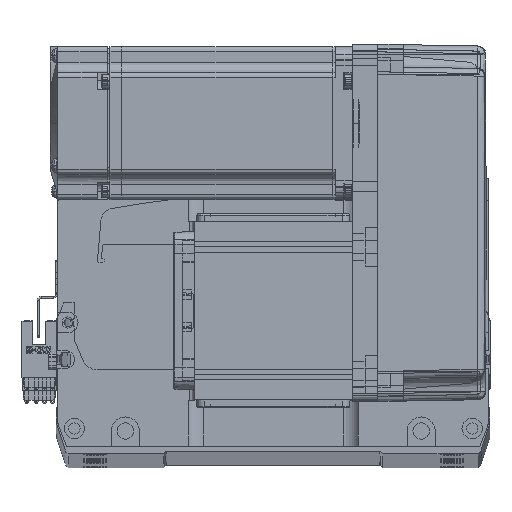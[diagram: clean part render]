
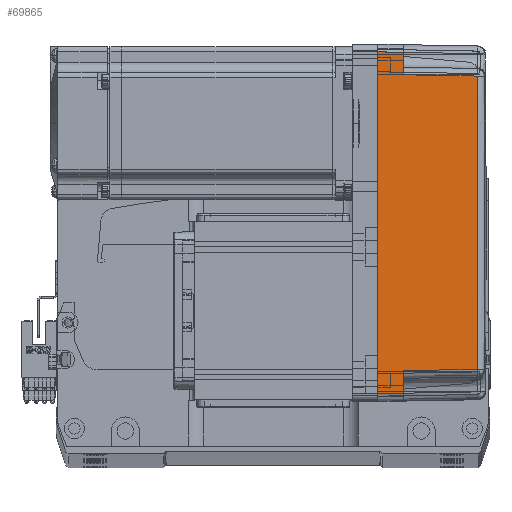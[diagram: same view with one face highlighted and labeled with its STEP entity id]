
A CAD part, top view. The second image highlights one B-rep face of the part: STEP entity #69865.
In plain terms, the highlighted planar face has unit normal (0.018, 0, 1) as drawn and (0, -1, 0.017) by its records, which use the part's own axes.
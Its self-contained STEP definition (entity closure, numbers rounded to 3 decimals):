
#636 = VECTOR ( 'NONE', #19066, 1000. ) ;
#691 = VERTEX_POINT ( 'NONE', #68217 ) ;
#1125 = VERTEX_POINT ( 'NONE', #10844 ) ;
#3075 = CARTESIAN_POINT ( 'NONE',  ( -57.495, -35.32, 38.985 ) ) ;
#5911 = VECTOR ( 'NONE', #8561, 1000. ) ;
#8229 = CARTESIAN_POINT ( 'NONE',  ( 58., -35.825, 10. ) ) ;
#8561 = DIRECTION ( 'NONE',  ( -0.017, 0.017, 1. ) ) ;
#9505 = LINE ( 'NONE', #24992, #66597 ) ;
#9507 = VERTEX_POINT ( 'NONE', #3075 ) ;
#10844 = CARTESIAN_POINT ( 'NONE',  ( 67., -36., 0. ) ) ;
#11178 = LINE ( 'NONE', #8229, #57015 ) ;
#12765 = LINE ( 'NONE', #29956, #636 ) ;
#14915 = ORIENTED_EDGE ( 'NONE', *, *, #27694, .T. ) ;
#15244 = CARTESIAN_POINT ( 'NONE',  ( -58., -35.825, 10. ) ) ;
#15950 = B_SPLINE_CURVE_WITH_KNOTS ( 'NONE', 3,
 ( #58510, #30748, #35818, #47166 ),
 .UNSPECIFIED., .F., .F.,
 ( 4, 4 ),
 ( 0., 1. ),
 .UNSPECIFIED. ) ;
#16515 = LINE ( 'NONE', #65953, #32145 ) ;
#16694 = VERTEX_POINT ( 'NONE', #57727 ) ;
#16784 = ORIENTED_EDGE ( 'NONE', *, *, #39924, .T. ) ;
#18071 = CARTESIAN_POINT ( 'NONE',  ( 70., -35.825, 10. ) ) ;
#18208 = EDGE_CURVE ( 'NONE', #42122, #63940, #42922, .T. ) ;
#18979 = ORIENTED_EDGE ( 'NONE', *, *, #34872, .F. ) ;
#18983 = AXIS2_PLACEMENT_3D ( 'NONE', #41030, #40798, #24318 ) ;
#19066 = DIRECTION ( 'NONE',  ( -0.017, -0.017, -1. ) ) ;
#19715 = DIRECTION ( 'NONE',  ( -1., 0., 0. ) ) ;
#19826 = DIRECTION ( 'NONE',  ( -0.017, 0.017, 1. ) ) ;
#21065 = EDGE_LOOP ( 'NONE', ( #14915, #57268, #62256, #16784, #50118, #69984, #18979, #39163 ) ) ;
#22068 = EDGE_CURVE ( 'NONE', #9507, #42122, #12765, .T. ) ;
#22213 = DIRECTION ( 'NONE',  ( 0.017, 0.017, 1. ) ) ;
#24318 = DIRECTION ( 'NONE',  ( 0., -0.017, -1. ) ) ;
#24992 = CARTESIAN_POINT ( 'NONE',  ( 0., -36., 0. ) ) ;
#25245 = CARTESIAN_POINT ( 'NONE',  ( 67., -36., 0. ) ) ;
#25961 = CARTESIAN_POINT ( 'NONE',  ( 66.826, -35.825, 10. ) ) ;
#27298 = VECTOR ( 'NONE', #19715, 1000. ) ;
#27694 = EDGE_CURVE ( 'NONE', #1125, #37660, #48310, .T. ) ;
#29956 = CARTESIAN_POINT ( 'NONE',  ( -57.495, -35.32, 38.985 ) ) ;
#30135 = CARTESIAN_POINT ( 'NONE',  ( -66.826, -35.825, 10. ) ) ;
#30748 = CARTESIAN_POINT ( 'NONE',  ( 19.165, -35.316, 39.181 ) ) ;
#32145 = VECTOR ( 'NONE', #22213, 1000. ) ;
#32823 = EDGE_CURVE ( 'NONE', #37660, #691, #64264, .T. ) ;
#34872 = EDGE_CURVE ( 'NONE', #62718, #63940, #16515, .T. ) ;
#35787 = EDGE_CURVE ( 'NONE', #691, #16694, #11178, .T. ) ;
#35818 = CARTESIAN_POINT ( 'NONE',  ( -19.165, -35.316, 39.181 ) ) ;
#35967 = PLANE ( 'NONE',  #18983 ) ;
#37660 = VERTEX_POINT ( 'NONE', #25961 ) ;
#38363 = CARTESIAN_POINT ( 'NONE',  ( -67., -36., 0. ) ) ;
#38412 = FACE_OUTER_BOUND ( 'NONE', #21065, .T. ) ;
#39163 = ORIENTED_EDGE ( 'NONE', *, *, #52867, .F. ) ;
#39924 = EDGE_CURVE ( 'NONE', #16694, #9507, #15950, .T. ) ;
#40798 = DIRECTION ( 'NONE',  ( 0., -1., 0.017 ) ) ;
#41030 = CARTESIAN_POINT ( 'NONE',  ( 70., -36., 0. ) ) ;
#42122 = VERTEX_POINT ( 'NONE', #15244 ) ;
#42922 = LINE ( 'NONE', #18071, #27298 ) ;
#47016 = DIRECTION ( 'NONE',  ( -1., 0., 0. ) ) ;
#47166 = CARTESIAN_POINT ( 'NONE',  ( -57.495, -35.32, 38.985 ) ) ;
#48310 = LINE ( 'NONE', #25245, #5911 ) ;
#50118 = ORIENTED_EDGE ( 'NONE', *, *, #22068, .T. ) ;
#52867 = EDGE_CURVE ( 'NONE', #1125, #62718, #9505, .T. ) ;
#54864 = VECTOR ( 'NONE', #47016, 1000. ) ;
#57015 = VECTOR ( 'NONE', #19826, 1000. ) ;
#57268 = ORIENTED_EDGE ( 'NONE', *, *, #32823, .T. ) ;
#57727 = CARTESIAN_POINT ( 'NONE',  ( 57.495, -35.32, 38.985 ) ) ;
#58510 = CARTESIAN_POINT ( 'NONE',  ( 57.495, -35.32, 38.985 ) ) ;
#62256 = ORIENTED_EDGE ( 'NONE', *, *, #35787, .T. ) ;
#62718 = VERTEX_POINT ( 'NONE', #38363 ) ;
#63940 = VERTEX_POINT ( 'NONE', #30135 ) ;
#64264 = LINE ( 'NONE', #70185, #54864 ) ;
#65953 = CARTESIAN_POINT ( 'NONE',  ( -66.959, -35.958, 2.39 ) ) ;
#66597 = VECTOR ( 'NONE', #70660, 1000. ) ;
#68217 = CARTESIAN_POINT ( 'NONE',  ( 58., -35.825, 10. ) ) ;
#69865 = ADVANCED_FACE ( 'NONE', ( #38412 ), #35967, .T. ) ;
#69984 = ORIENTED_EDGE ( 'NONE', *, *, #18208, .T. ) ;
#70185 = CARTESIAN_POINT ( 'NONE',  ( 70., -35.825, 10. ) ) ;
#70660 = DIRECTION ( 'NONE',  ( -1., 0., 0. ) ) ;
